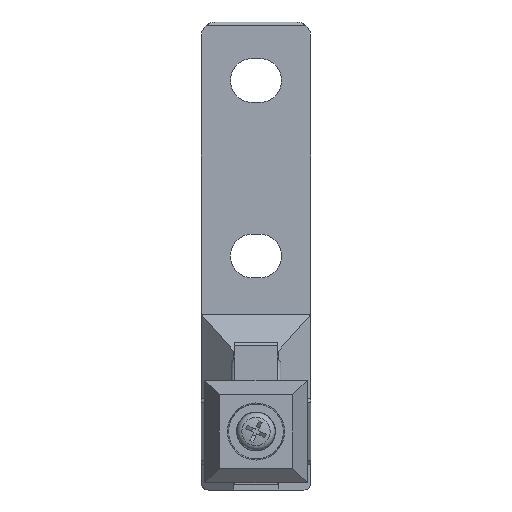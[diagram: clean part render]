
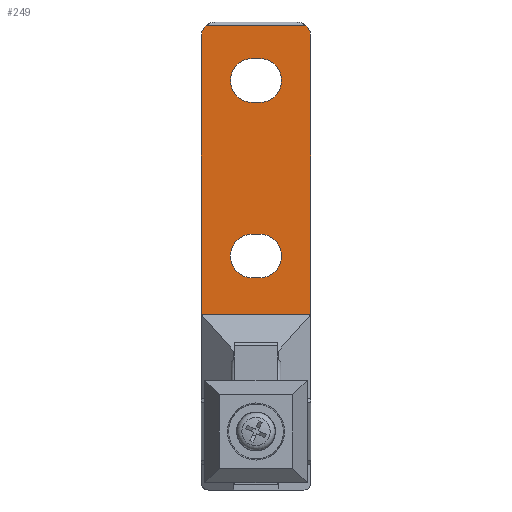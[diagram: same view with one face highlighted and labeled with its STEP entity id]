
A CAD part, left-side view. The second image highlights one B-rep face of the part: STEP entity #249.
In plain terms, the highlighted planar face has unit normal (-1, 0, 0).
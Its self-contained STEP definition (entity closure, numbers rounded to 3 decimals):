
#249 = ADVANCED_FACE( '', ( #682, #683, #684 ), #685, .T. );
#682 = FACE_OUTER_BOUND( '', #1342, .T. );
#683 = FACE_BOUND( '', #1343, .T. );
#684 = FACE_BOUND( '', #1344, .T. );
#685 = PLANE( '', #1345 );
#1342 = EDGE_LOOP( '', ( #2117, #2118, #2119, #2120, #2121, #2122 ) );
#1343 = EDGE_LOOP( '', ( #2123, #2124, #2125, #2126 ) );
#1344 = EDGE_LOOP( '', ( #2127, #2128, #2129, #2130 ) );
#1345 = AXIS2_PLACEMENT_3D( '', #2131, #2132, #2133 );
#2117 = ORIENTED_EDGE( '', *, *, #3706, .T. );
#2118 = ORIENTED_EDGE( '', *, *, #3707, .T. );
#2119 = ORIENTED_EDGE( '', *, *, #3708, .T. );
#2120 = ORIENTED_EDGE( '', *, *, #3709, .F. );
#2121 = ORIENTED_EDGE( '', *, *, #3710, .T. );
#2122 = ORIENTED_EDGE( '', *, *, #3711, .T. );
#2123 = ORIENTED_EDGE( '', *, *, #3712, .T. );
#2124 = ORIENTED_EDGE( '', *, *, #3713, .T. );
#2125 = ORIENTED_EDGE( '', *, *, #3714, .T. );
#2126 = ORIENTED_EDGE( '', *, *, #3715, .T. );
#2127 = ORIENTED_EDGE( '', *, *, #3716, .T. );
#2128 = ORIENTED_EDGE( '', *, *, #3717, .T. );
#2129 = ORIENTED_EDGE( '', *, *, #3718, .T. );
#2130 = ORIENTED_EDGE( '', *, *, #3656, .T. );
#2131 = CARTESIAN_POINT( '', ( 21.9, 0., 21.8 ) );
#2132 = DIRECTION( '', ( -1., 0., 0. ) );
#2133 = DIRECTION( '', ( 0., -1., 0. ) );
#3656 = EDGE_CURVE( '', #4287, #4285, #4288, .T. );
#3706 = EDGE_CURVE( '', #4373, #4374, #4375, .T. );
#3707 = EDGE_CURVE( '', #4374, #4376, #4377, .T. );
#3708 = EDGE_CURVE( '', #4376, #4378, #4379, .T. );
#3709 = EDGE_CURVE( '', #4380, #4378, #4381, .T. );
#3710 = EDGE_CURVE( '', #4380, #4382, #4383, .T. );
#3711 = EDGE_CURVE( '', #4382, #4373, #4384, .T. );
#3712 = EDGE_CURVE( '', #4385, #4386, #4387, .T. );
#3713 = EDGE_CURVE( '', #4386, #4388, #4389, .T. );
#3714 = EDGE_CURVE( '', #4388, #4390, #4391, .T. );
#3715 = EDGE_CURVE( '', #4390, #4385, #4392, .T. );
#3716 = EDGE_CURVE( '', #4285, #4393, #4394, .T. );
#3717 = EDGE_CURVE( '', #4393, #4395, #4396, .T. );
#3718 = EDGE_CURVE( '', #4395, #4287, #4397, .T. );
#4285 = VERTEX_POINT( '', #5198 );
#4287 = VERTEX_POINT( '', #5201 );
#4288 = LINE( '', #5202, #5203 );
#4373 = VERTEX_POINT( '', #5309 );
#4374 = VERTEX_POINT( '', #5310 );
#4375 = LINE( '', #5311, #5312 );
#4376 = VERTEX_POINT( '', #5313 );
#4377 = CIRCLE( '', #5314, 2. );
#4378 = VERTEX_POINT( '', #5315 );
#4379 = LINE( '', #5316, #5317 );
#4380 = VERTEX_POINT( '', #5318 );
#4381 = LINE( '', #5319, #5320 );
#4382 = VERTEX_POINT( '', #5321 );
#4383 = LINE( '', #5322, #5323 );
#4384 = CIRCLE( '', #5324, 2. );
#4385 = VERTEX_POINT( '', #5325 );
#4386 = VERTEX_POINT( '', #5326 );
#4387 = CIRCLE( '', #5327, 3. );
#4388 = VERTEX_POINT( '', #5328 );
#4389 = LINE( '', #5329, #5330 );
#4390 = VERTEX_POINT( '', #5331 );
#4391 = CIRCLE( '', #5332, 3. );
#4392 = LINE( '', #5333, #5334 );
#4393 = VERTEX_POINT( '', #5335 );
#4394 = CIRCLE( '', #5336, 3. );
#4395 = VERTEX_POINT( '', #5337 );
#4396 = LINE( '', #5338, #5339 );
#4397 = CIRCLE( '', #5340, 3. );
#5198 = CARTESIAN_POINT( '', ( 21.9, 0.5, 42.8 ) );
#5201 = CARTESIAN_POINT( '', ( 21.9, -0.5, 42.8 ) );
#5202 = CARTESIAN_POINT( '', ( 21.9, 0.5, 42.8 ) );
#5203 = VECTOR( '', #6509, 1000. );
#5309 = CARTESIAN_POINT( '', ( 21.9, -6.823, 53.3 ) );
#5310 = CARTESIAN_POINT( '', ( 21.9, 6.823, 53.3 ) );
#5311 = CARTESIAN_POINT( '', ( 21.9, 7.5, 53.3 ) );
#5312 = VECTOR( '', #6580, 1000. );
#5313 = CARTESIAN_POINT( '', ( 21.9, 7.5, 51.8 ) );
#5314 = AXIS2_PLACEMENT_3D( '', #6581, #6582, #6583 );
#5315 = CARTESIAN_POINT( '', ( 21.9, 7.5, 13.8 ) );
#5316 = CARTESIAN_POINT( '', ( 21.9, 7.5, 53.8 ) );
#5317 = VECTOR( '', #6584, 1000. );
#5318 = CARTESIAN_POINT( '', ( 21.9, -7.5, 13.8 ) );
#5319 = CARTESIAN_POINT( '', ( 21.9, -7.5, 13.8 ) );
#5320 = VECTOR( '', #6585, 1000. );
#5321 = CARTESIAN_POINT( '', ( 21.9, -7.5, 51.8 ) );
#5322 = CARTESIAN_POINT( '', ( 21.9, -7.5, -10.2 ) );
#5323 = VECTOR( '', #6586, 1000. );
#5324 = AXIS2_PLACEMENT_3D( '', #6587, #6588, #6589 );
#5325 = CARTESIAN_POINT( '', ( 21.9, 0.5, 18.8 ) );
#5326 = CARTESIAN_POINT( '', ( 21.9, 0.5, 24.8 ) );
#5327 = AXIS2_PLACEMENT_3D( '', #6590, #6591, #6592 );
#5328 = CARTESIAN_POINT( '', ( 21.9, -0.5, 24.8 ) );
#5329 = CARTESIAN_POINT( '', ( 21.9, 0.5, 24.8 ) );
#5330 = VECTOR( '', #6593, 1000. );
#5331 = CARTESIAN_POINT( '', ( 21.9, -0.5, 18.8 ) );
#5332 = AXIS2_PLACEMENT_3D( '', #6594, #6595, #6596 );
#5333 = CARTESIAN_POINT( '', ( 21.9, 0.5, 18.8 ) );
#5334 = VECTOR( '', #6597, 1000. );
#5335 = CARTESIAN_POINT( '', ( 21.9, 0.5, 48.8 ) );
#5336 = AXIS2_PLACEMENT_3D( '', #6598, #6599, #6600 );
#5337 = CARTESIAN_POINT( '', ( 21.9, -0.5, 48.8 ) );
#5338 = CARTESIAN_POINT( '', ( 21.9, 0.5, 48.8 ) );
#5339 = VECTOR( '', #6601, 1000. );
#5340 = AXIS2_PLACEMENT_3D( '', #6602, #6603, #6604 );
#6509 = DIRECTION( '', ( 0., 1., 0. ) );
#6580 = DIRECTION( '', ( 0., 1., 0. ) );
#6581 = CARTESIAN_POINT( '', ( 21.9, 5.5, 51.8 ) );
#6582 = DIRECTION( '', ( -1., 0., 0. ) );
#6583 = DIRECTION( '', ( 0., -1., 0. ) );
#6584 = DIRECTION( '', ( 0., 0., -1. ) );
#6585 = DIRECTION( '', ( 0., 1., 0. ) );
#6586 = DIRECTION( '', ( 0., 0., 1. ) );
#6587 = CARTESIAN_POINT( '', ( 21.9, -5.5, 51.8 ) );
#6588 = DIRECTION( '', ( -1., 0., 0. ) );
#6589 = DIRECTION( '', ( 0., -1., 0. ) );
#6590 = CARTESIAN_POINT( '', ( 21.9, 0.5, 21.8 ) );
#6591 = DIRECTION( '', ( 1., 0., 0. ) );
#6592 = DIRECTION( '', ( 0., 0., -1. ) );
#6593 = DIRECTION( '', ( 0., -1., 0. ) );
#6594 = CARTESIAN_POINT( '', ( 21.9, -0.5, 21.8 ) );
#6595 = DIRECTION( '', ( 1., 0., 0. ) );
#6596 = DIRECTION( '', ( 0., 0., 1. ) );
#6597 = DIRECTION( '', ( 0., 1., 0. ) );
#6598 = CARTESIAN_POINT( '', ( 21.9, 0.5, 45.8 ) );
#6599 = DIRECTION( '', ( 1., 0., 0. ) );
#6600 = DIRECTION( '', ( 0., 0., -1. ) );
#6601 = DIRECTION( '', ( 0., -1., 0. ) );
#6602 = CARTESIAN_POINT( '', ( 21.9, -0.5, 45.8 ) );
#6603 = DIRECTION( '', ( 1., 0., 0. ) );
#6604 = DIRECTION( '', ( 0., 0., 1. ) );
